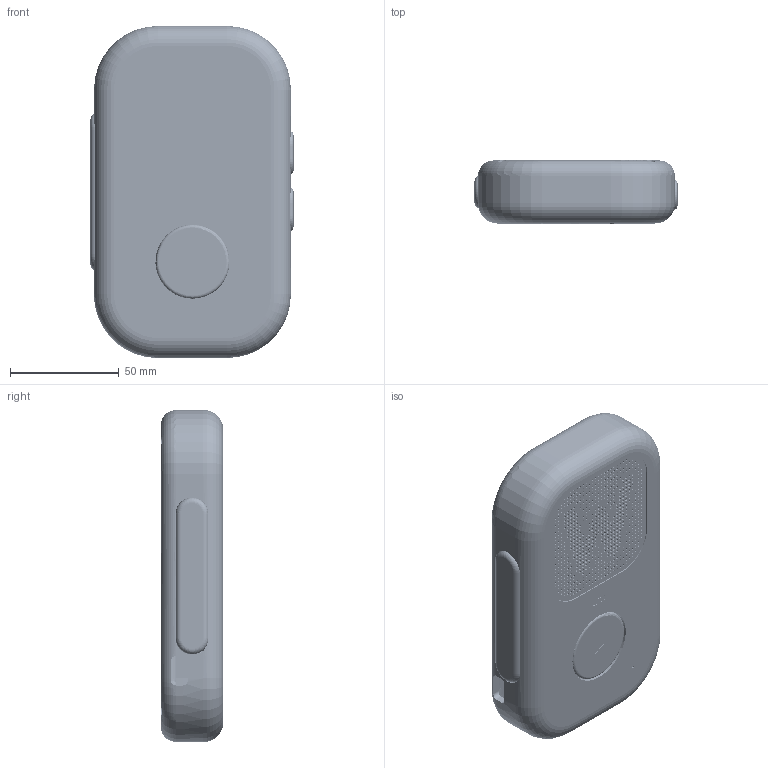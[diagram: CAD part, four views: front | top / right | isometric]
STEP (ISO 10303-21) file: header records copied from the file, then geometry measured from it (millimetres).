
FILE_DESCRIPTION(('Open CASCADE Model'),'2;1');
FILE_NAME('ASTRA 21.2 R5 rounded hand-feel 28.8mm - custom mechanics and fasteners','2026-09-04T19:55:50',('Author'),('Open CASCADE'), 'Open CASCADE STEP processor 7.8','build123d','Unknown');
FILE_SCHEMA(('AUTOMOTIVE_DESIGN { 1 0 10303 214 1 1 1 1 }'));
Length unit declared in the file: millimetre
Products named in the file (116): ASTRA 21.2 R5 rounded hand-feel 28.8mm - custom mechanics and 
fasteners; front_chassis_PA12; rear_service_cover_PA12; front_grip_skin_finegrain_cream; SOLID; rear_grip_skin_finegrain_cream_INSCRIBED; grille_W_perforated_0_8mm_charcoal; ptt_cap_orange_72mm; vol_plus_cap_sage; vol_minus_cap_sage; play_action_cap_cream; status_lens_clear_diffusing; carrier_front_switch_fr4_handwired; carrier_left_ptt_fr4_handwired; carrier_right_vol_fr4_handwired; carrier_led_fr4_handwired; mic_clamp_bracket_PA12; ptt_pad_silicone_1; ptt_pad_silicone_2; vol_plus_pad_silicone; vol_minus_pad_silicone; play_pad_silicone; pcb_clamp_pad_silicone_1_0to0_8_1; pcb_clamp_pad_silicone_1_0to0_8_2; pcb_clamp_pad_silicone_1_0to0_8_3; pcb_clamp_pad_silicone_1_0to0_8_4; battery_foam_pad_PORON_3_0to2_5_1; battery_foam_pad_PORON_3_0to2_5_2; battery_foam_pad_PORON_3_0to2_5_3; battery_tray_foam_0_8to0_5; mic_foam_strip_3_0to2_8_1; mic_foam_strip_3_0to2_8_2; mic_duct_foam_gasket_2_3to1_9; speaker_rim_foam_gasket_1_3to1_0; lte_backing_adhesive_0_2; grille_perimeter_PSA_0_10; rear_grip_PSA_panel_0_10; front_grip_PSA_patch_0_10_1; front_grip_PSA_patch_0_10_2; front_grip_PSA_patch_0_10_3 ...
Assembly tree (115 placements, depth 3):
  ASTRA 21.2 R5 rounded hand-feel 28.8mm - custom mechanics and 
fasteners
    front_chassis_PA12
    rear_service_cover_PA12
    front_grip_skin_finegrain_cream
      SOLID
    rear_grip_skin_finegrain_cream_INSCRIBED
      SOLID
    grille_W_perforated_0_8mm_charcoal
      SOLID
    ptt_cap_orange_72mm
    vol_plus_cap_sage
    vol_minus_cap_sage
    play_action_cap_cream
    status_lens_clear_diffusing
    carrier_front_switch_fr4_handwired
      SOLID
    carrier_left_ptt_fr4_handwired
      SOLID
    carrier_right_vol_fr4_handwired
      SOLID
    carrier_led_fr4_handwired
      SOLID
    mic_clamp_bracket_PA12
      SOLID
    ptt_pad_silicone_1
      SOLID
    ptt_pad_silicone_2
      SOLID
    vol_plus_pad_silicone
      SOLID
    vol_minus_pad_silicone
      SOLID
    play_pad_silicone
      SOLID
    pcb_clamp_pad_silicone_1_0to0_8_1
      SOLID
    pcb_clamp_pad_silicone_1_0to0_8_2
      SOLID
    pcb_clamp_pad_silicone_1_0to0_8_3
      SOLID
    pcb_clamp_pad_silicone_1_0to0_8_4
      SOLID
    battery_foam_pad_PORON_3_0to2_5_1
      SOLID
    battery_foam_pad_PORON_3_0to2_5_2
      SOLID
    battery_foam_pad_PORON_3_0to2_5_3
      SOLID
    battery_tray_foam_0_8to0_5
      SOLID
    mic_foam_strip_3_0to2_8_1
      SOLID
    mic_foam_strip_3_0to2_8_2
      SOLID
    mic_duct_foam_gasket_2_3to1_9
      SOLID
    speaker_rim_foam_gasket_1_3to1_0
      SOLID
    lte_backing_adhesive_0_2
      SOLID
Bounding box: 93.2 x 28.8 x 152.4 mm (x, y, z)
Volume: 129696 mm3; surface area: 173680 mm2
Topology: 68 solids, 68 shells, 6404 faces, 17812 edges, 11817 vertices
Faces by surface type: bspline 2310, plane 2220, cylinder 1324, extrusion 419, cone 84, torus 47
Full cylindrical faces by diameter (mm): 0.9 x452, 1.1 x85, 1.2 x2, 1.25 x73, 1.4 x111, 1.5 x1, 1.623 x56, 2 x14, 2.074 x56, 2.4 x10, 2.9 x14, 3 x2, 3.03 x14, 3.2 x28, 3.8 x14, 4.2 x4, 4.6 x4, 5 x4, 6 x1, 6.4 x10, 8 x1, 34.6 x1, 36 x1, 37 x1, 38.5 x1, 40 x1
Entity records: 675367 total; most frequent: CARTESIAN_POINT 356267, DIRECTION 43107, ORIENTED_EDGE 35624, PCURVE 35624, DEFINITIONAL_REPRESENTATION 35624, VECTOR 29036, LINE 28617, B_SPLINE_CURVE_WITH_KNOTS 20793
